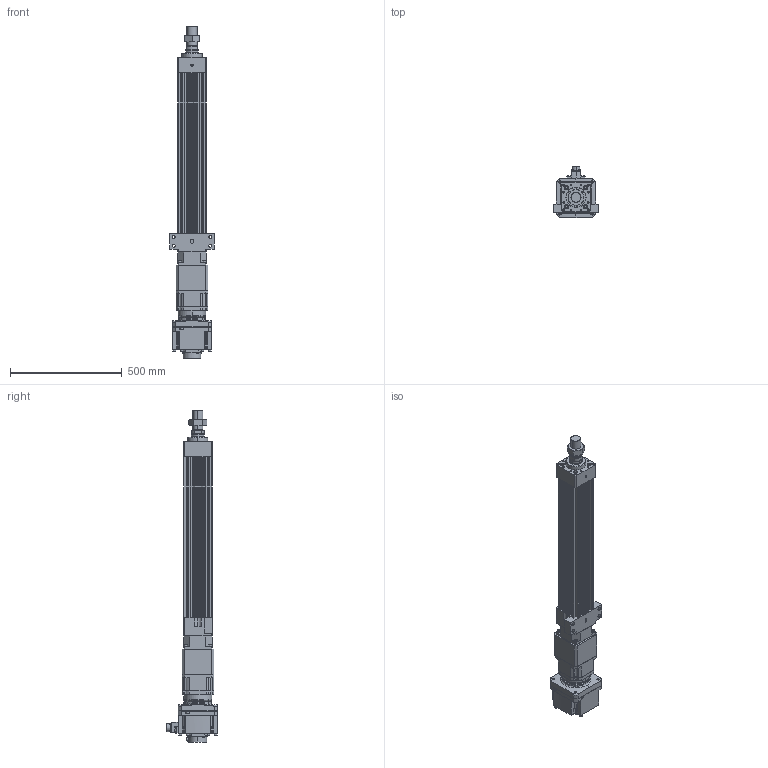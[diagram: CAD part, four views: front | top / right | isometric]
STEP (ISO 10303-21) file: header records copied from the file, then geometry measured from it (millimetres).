
FILE_DESCRIPTION (( 'STEP AP203' ), '1' );
FILE_NAME ('HES130FS(HS)-S500-W020G00-M-FFC.STEP', '2023-01-31T03:19:45', ( 'tms' ), ( '' ), 'SwSTEP 2.0', 'SolidWorks 2013', '' );
FILE_SCHEMA (( 'CONFIG_CONTROL_DESIGN' ));
Length unit declared in the file: millimetre
Products named in the file (9): P0403500801; M45X1.5P; AB142-003[HG-SR352]; P1301500001; HES130 ROD M ST500; HG-SR202; HES130FS(HS)-S500-W020G00-M-FFC; HES130-S500-G142-FFC; AB1421
Assembly tree (8 placements, depth 3):
  HES130FS(HS)-S500-W020G00-M-FFC
    HES130-S500-G142-FFC
    HES130 ROD M ST500
    M45X1.5P
    AB142-003[HG-SR352]
      AB1421
      P1301500001
      P0403500801
    HG-SR202
Bounding box: 200 x 228.85 x 1487.5 mm (x, y, z)
Volume: 13104077.7 mm3; surface area: 1702258.6 mm2
Topology: 4 solids, 22 shells, 1546 faces, 3982 edges, 2565 vertices
Faces by surface type: cylinder 694, plane 586, cone 184, bspline 76, torus 6
Entity records: 55838 total; most frequent: CARTESIAN_POINT 16862, DIRECTION 8160, ORIENTED_EDGE 7822, EDGE_CURVE 3933, AXIS2_PLACEMENT_3D 3080, VERTEX_POINT 2565, LINE 2000, VECTOR 2000
